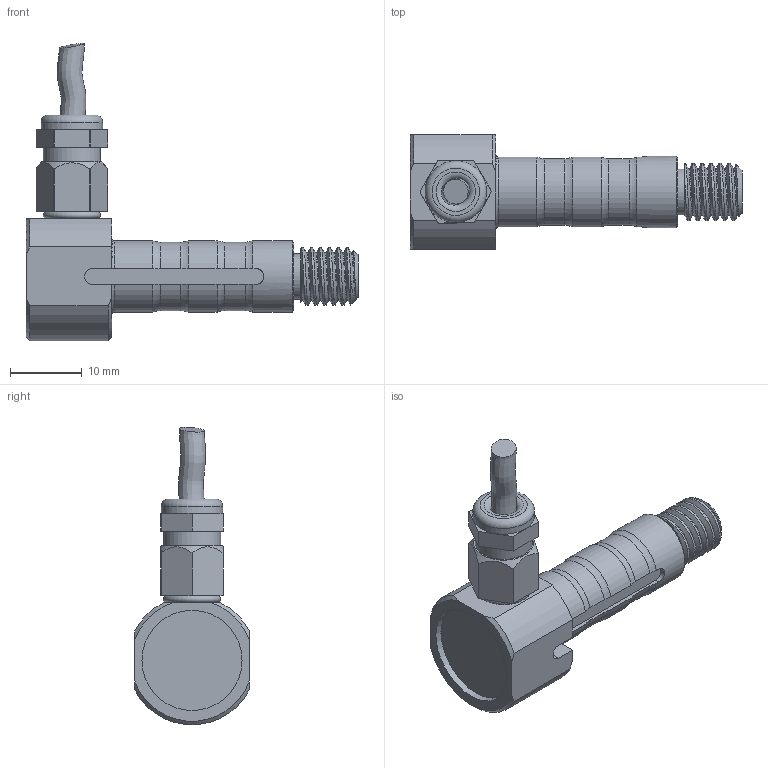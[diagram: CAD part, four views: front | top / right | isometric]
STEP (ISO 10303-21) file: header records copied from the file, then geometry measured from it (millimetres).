
FILE_DESCRIPTION(/* description */ ('Alibre Inc.'),/* implementation_level */ '2;1');
FILE_NAME(/* name */ 'export0',/* time_stamp */ '2018-08-17T10:36:28+02:00',/* author */ (''),/* organization */ (''),/* preprocessor_version */ 'ST-DEVELOPER v17',/* originating_system */ 'Alibre',/* authorisation */ '');
FILE_SCHEMA (('CONFIG_CONTROL_DESIGN'));
Length unit declared in the file: millimetre
Products named in the file (6): ID_1; ID_2; ID_3
Bounding box: 46.4 x 16 x 41.54 mm (x, y, z)
Volume: 5684.8 mm3; surface area: 3477.6 mm2
Topology: 4 solids, 4 shells, 108 faces, 280 edges, 185 vertices
Faces by surface type: plane 40, cylinder 40, torus 13, cone 11, bspline 4
Full cylindrical faces by diameter (mm): 3.5 x1, 4.917 x1, 6 x1, 6.4 x1, 8 x1, 8.6 x1, 10 x1, 14 x1
Entity records: 5267 total; most frequent: CARTESIAN_POINT 2416, ORIENTED_EDGE 512, DIRECTION 374, EDGE_CURVE 256, VERTEX_POINT 180, AXIS2_PLACEMENT_3D 153, FACE_BOUND 134, EDGE_LOOP 132
